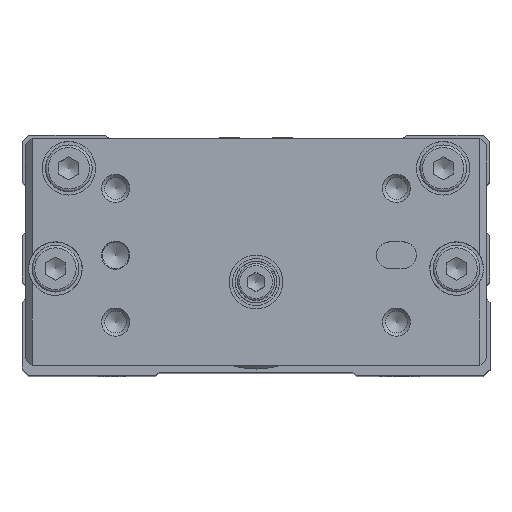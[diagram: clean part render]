
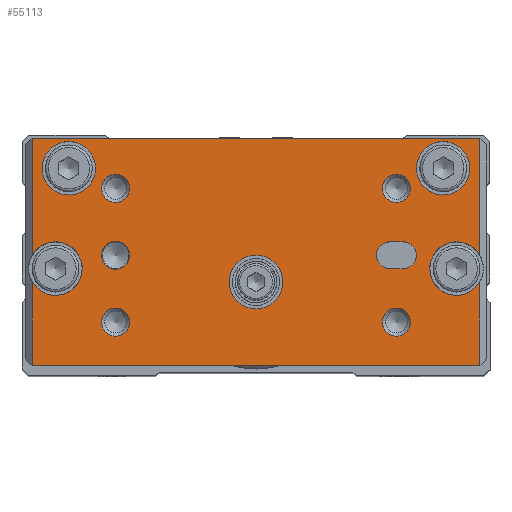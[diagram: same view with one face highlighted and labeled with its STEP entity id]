
A CAD part, top view. The second image highlights one B-rep face of the part: STEP entity #55113.
In plain terms, the highlighted planar face has unit normal (0, 0, 1).
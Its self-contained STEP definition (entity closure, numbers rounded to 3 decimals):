
#54469=CARTESIAN_POINT('',(0.634,10.496,60.028));
#54470=VERTEX_POINT('',#54469);
#54471=CARTESIAN_POINT('',(4.634,10.496,60.028));
#54472=VERTEX_POINT('',#54471);
#54473=CARTESIAN_POINT('',(2.634,10.496,60.028));
#54474=DIRECTION('',(0.0,0.0,-1.0));
#54475=DIRECTION('',(-1.0,0.0,0.0));
#54476=AXIS2_PLACEMENT_3D('',#54473,#54474,#54475);
#54477=CIRCLE('',#54476,2.0);
#54478=EDGE_CURVE('',#54470,#54472,#54477,.T.);
#54501=CARTESIAN_POINT('',(0.634,8.496,60.028));
#54502=VERTEX_POINT('',#54501);
#54503=CARTESIAN_POINT('',(0.634,8.496,60.028));
#54504=DIRECTION('',(0.0,1.0,0.0));
#54505=VECTOR('',#54504,2.);
#54506=LINE('',#54503,#54505);
#54507=EDGE_CURVE('',#54502,#54470,#54506,.T.);
#54525=CARTESIAN_POINT('',(4.634,8.496,60.028));
#54526=VERTEX_POINT('',#54525);
#54527=CARTESIAN_POINT('',(2.634,8.496,60.028));
#54528=DIRECTION('',(0.0,0.0,-1.0));
#54529=DIRECTION('',(1.0,0.0,0.0));
#54530=AXIS2_PLACEMENT_3D('',#54527,#54528,#54529);
#54531=CIRCLE('',#54530,2.0);
#54532=EDGE_CURVE('',#54526,#54502,#54531,.T.);
#54550=CARTESIAN_POINT('',(4.634,10.496,60.028));
#54551=DIRECTION('',(0.0,-1.0,0.0));
#54552=VECTOR('',#54551,2.);
#54553=LINE('',#54550,#54552);
#54554=EDGE_CURVE('',#54472,#54526,#54553,.T.);
#54584=CARTESIAN_POINT('',(4.734,-32.504,60.028));
#54585=VERTEX_POINT('',#54584);
#54586=CARTESIAN_POINT('',(2.634,-32.504,60.028));
#54587=DIRECTION('',(0.0,0.0,-1.0));
#54588=DIRECTION('',(1.0,0.0,0.0));
#54589=AXIS2_PLACEMENT_3D('',#54586,#54587,#54588);
#54590=CIRCLE('',#54589,2.1);
#54591=EDGE_CURVE('',#54585,#54585,#54590,.T.);
#54641=CARTESIAN_POINT('',(14.734,9.496,60.028));
#54642=VERTEX_POINT('',#54641);
#54643=CARTESIAN_POINT('',(12.634,9.496,60.028));
#54644=DIRECTION('',(0.0,0.0,-1.0));
#54645=DIRECTION('',(1.0,0.0,0.0));
#54646=AXIS2_PLACEMENT_3D('',#54643,#54644,#54645);
#54647=CIRCLE('',#54646,2.1);
#54648=EDGE_CURVE('',#54642,#54642,#54647,.T.);
#54698=CARTESIAN_POINT('',(-5.266,-32.504,60.028));
#54699=VERTEX_POINT('',#54698);
#54700=CARTESIAN_POINT('',(-7.366,-32.504,60.028));
#54701=DIRECTION('',(0.0,0.0,-1.0));
#54702=DIRECTION('',(1.0,0.0,0.0));
#54703=AXIS2_PLACEMENT_3D('',#54700,#54701,#54702);
#54704=CIRCLE('',#54703,2.1);
#54705=EDGE_CURVE('',#54699,#54699,#54704,.T.);
#54755=CARTESIAN_POINT('',(14.734,-32.504,60.028));
#54756=VERTEX_POINT('',#54755);
#54757=CARTESIAN_POINT('',(12.634,-32.504,60.028));
#54758=DIRECTION('',(0.0,0.0,-1.0));
#54759=DIRECTION('',(1.0,0.0,0.0));
#54760=AXIS2_PLACEMENT_3D('',#54757,#54758,#54759);
#54761=CIRCLE('',#54760,2.1);
#54762=EDGE_CURVE('',#54756,#54756,#54761,.T.);
#54812=CARTESIAN_POINT('',(-5.266,9.496,60.028));
#54813=VERTEX_POINT('',#54812);
#54814=CARTESIAN_POINT('',(-7.366,9.496,60.028));
#54815=DIRECTION('',(0.0,0.0,-1.0));
#54816=DIRECTION('',(1.0,0.0,0.0));
#54817=AXIS2_PLACEMENT_3D('',#54814,#54815,#54816);
#54818=CIRCLE('',#54817,2.1);
#54819=EDGE_CURVE('',#54813,#54813,#54818,.T.);
#54852=CARTESIAN_POINT('',(6.571,-45.004,60.028));
#54853=VERTEX_POINT('',#54852);
#54854=CARTESIAN_POINT('',(2.698,-45.004,60.028));
#54855=VERTEX_POINT('',#54854);
#54863=CARTESIAN_POINT('',(-14.866,-45.004,60.028));
#54864=VERTEX_POINT('',#54863);
#54865=CARTESIAN_POINT('',(2.698,-45.004,60.028));
#54866=DIRECTION('',(-1.0,0.0,0.0));
#54867=VECTOR('',#54866,17.564);
#54868=LINE('',#54865,#54867);
#54869=EDGE_CURVE('',#54855,#54864,#54868,.T.);
#54887=CARTESIAN_POINT('',(19.134,-45.004,60.028));
#54888=VERTEX_POINT('',#54887);
#54895=CARTESIAN_POINT('',(19.134,-45.004,60.028));
#54896=DIRECTION('',(-1.0,0.0,0.0));
#54897=VECTOR('',#54896,12.564);
#54898=LINE('',#54895,#54897);
#54899=EDGE_CURVE('',#54888,#54853,#54898,.T.);
#54948=CARTESIAN_POINT('',(2.698,21.996,60.028));
#54949=VERTEX_POINT('',#54948);
#54950=CARTESIAN_POINT('',(6.571,21.996,60.028));
#54951=VERTEX_POINT('',#54950);
#54959=CARTESIAN_POINT('',(19.134,21.996,60.028));
#54960=VERTEX_POINT('',#54959);
#54961=CARTESIAN_POINT('',(6.571,21.996,60.028));
#54962=DIRECTION('',(1.0,0.0,0.0));
#54963=VECTOR('',#54962,12.564);
#54964=LINE('',#54961,#54963);
#54965=EDGE_CURVE('',#54951,#54960,#54964,.T.);
#54983=CARTESIAN_POINT('',(-14.866,21.996,60.028));
#54984=VERTEX_POINT('',#54983);
#54991=CARTESIAN_POINT('',(-14.866,21.996,60.028));
#54992=DIRECTION('',(1.0,0.0,0.0));
#54993=VECTOR('',#54992,17.564);
#54994=LINE('',#54991,#54993);
#54995=EDGE_CURVE('',#54984,#54949,#54994,.T.);
#55022=CARTESIAN_POINT('',(2.134,-11.504,60.028));
#55023=DIRECTION('',(0.0,0.0,1.0));
#55024=DIRECTION('',(1.0,0.0,0.0));
#55025=AXIS2_PLACEMENT_3D('',#55022,#55023,#55024);
#55026=PLANE('',#55025);
#55027=ORIENTED_EDGE('',*,*,#54899,.F.);
#55028=CARTESIAN_POINT('',(19.134,-45.004,60.028));
#55029=DIRECTION('',(0.0,1.0,0.0));
#55030=VECTOR('',#55029,67.);
#55031=LINE('',#55028,#55030);
#55032=EDGE_CURVE('',#54888,#54960,#55031,.T.);
#55033=ORIENTED_EDGE('',*,*,#55032,.T.);
#55034=ORIENTED_EDGE('',*,*,#54965,.F.);
#55035=CARTESIAN_POINT('',(4.634,18.496,60.028));
#55036=DIRECTION('',(0.0,0.0,-1.0));
#55037=DIRECTION('',(1.0,0.0,0.0));
#55038=AXIS2_PLACEMENT_3D('',#55035,#55036,#55037);
#55039=CIRCLE('',#55038,4.);
#55040=EDGE_CURVE('',#54951,#54949,#55039,.T.);
#55041=ORIENTED_EDGE('',*,*,#55040,.T.);
#55042=ORIENTED_EDGE('',*,*,#54995,.F.);
#55043=CARTESIAN_POINT('',(-14.866,21.996,60.028));
#55044=DIRECTION('',(0.0,-1.0,0.0));
#55045=VECTOR('',#55044,67.);
#55046=LINE('',#55043,#55045);
#55047=EDGE_CURVE('',#54984,#54864,#55046,.T.);
#55048=ORIENTED_EDGE('',*,*,#55047,.T.);
#55049=ORIENTED_EDGE('',*,*,#54869,.F.);
#55050=CARTESIAN_POINT('',(4.634,-41.504,60.028));
#55051=DIRECTION('',(0.0,0.0,-1.0));
#55052=DIRECTION('',(1.0,0.0,0.0));
#55053=AXIS2_PLACEMENT_3D('',#55050,#55051,#55052);
#55054=CIRCLE('',#55053,4.);
#55055=EDGE_CURVE('',#54855,#54853,#55054,.T.);
#55056=ORIENTED_EDGE('',*,*,#55055,.T.);
#55057=EDGE_LOOP('',(#55027,#55033,#55034,#55041,#55042,#55048,#55049,#55056));
#55058=FACE_OUTER_BOUND('',#55057,.T.);
#55059=ORIENTED_EDGE('',*,*,#54478,.T.);
#55060=ORIENTED_EDGE('',*,*,#54554,.T.);
#55061=ORIENTED_EDGE('',*,*,#54532,.T.);
#55062=ORIENTED_EDGE('',*,*,#54507,.T.);
#55063=EDGE_LOOP('',(#55059,#55060,#55061,#55062));
#55064=FACE_BOUND('',#55063,.T.);
#55065=ORIENTED_EDGE('',*,*,#54591,.T.);
#55066=EDGE_LOOP('',(#55065));
#55067=FACE_BOUND('',#55066,.T.);
#55068=ORIENTED_EDGE('',*,*,#54648,.T.);
#55069=EDGE_LOOP('',(#55068));
#55070=FACE_BOUND('',#55069,.T.);
#55071=ORIENTED_EDGE('',*,*,#54705,.T.);
#55072=EDGE_LOOP('',(#55071));
#55073=FACE_BOUND('',#55072,.T.);
#55074=ORIENTED_EDGE('',*,*,#54762,.T.);
#55075=EDGE_LOOP('',(#55074));
#55076=FACE_BOUND('',#55075,.T.);
#55077=ORIENTED_EDGE('',*,*,#54819,.T.);
#55078=EDGE_LOOP('',(#55077));
#55079=FACE_BOUND('',#55078,.T.);
#55080=CARTESIAN_POINT('',(10.634,-11.504,60.028));
#55081=VERTEX_POINT('',#55080);
#55082=CARTESIAN_POINT('',(6.634,-11.504,60.028));
#55083=DIRECTION('',(0.0,0.0,-1.0));
#55084=DIRECTION('',(-1.0,0.0,0.0));
#55085=AXIS2_PLACEMENT_3D('',#55082,#55083,#55084);
#55086=CIRCLE('',#55085,4.);
#55087=EDGE_CURVE('',#55081,#55081,#55086,.T.);
#55088=ORIENTED_EDGE('',*,*,#55087,.T.);
#55089=EDGE_LOOP('',(#55088));
#55090=FACE_BOUND('',#55089,.T.);
#55091=CARTESIAN_POINT('',(-6.366,16.496,60.028));
#55092=VERTEX_POINT('',#55091);
#55093=CARTESIAN_POINT('',(-10.366,16.496,60.028));
#55094=DIRECTION('',(0.0,0.0,-1.0));
#55095=DIRECTION('',(1.0,0.0,0.0));
#55096=AXIS2_PLACEMENT_3D('',#55093,#55094,#55095);
#55097=CIRCLE('',#55096,4.);
#55098=EDGE_CURVE('',#55092,#55092,#55097,.T.);
#55099=ORIENTED_EDGE('',*,*,#55098,.T.);
#55100=EDGE_LOOP('',(#55099));
#55101=FACE_BOUND('',#55100,.T.);
#55102=CARTESIAN_POINT('',(-6.366,-39.504,60.028));
#55103=VERTEX_POINT('',#55102);
#55104=CARTESIAN_POINT('',(-10.366,-39.504,60.028));
#55105=DIRECTION('',(0.0,0.0,-1.0));
#55106=DIRECTION('',(1.0,0.0,0.0));
#55107=AXIS2_PLACEMENT_3D('',#55104,#55105,#55106);
#55108=CIRCLE('',#55107,4.);
#55109=EDGE_CURVE('',#55103,#55103,#55108,.T.);
#55110=ORIENTED_EDGE('',*,*,#55109,.T.);
#55111=EDGE_LOOP('',(#55110));
#55112=FACE_BOUND('',#55111,.T.);
#55113=ADVANCED_FACE('',(#55058,#55064,#55067,#55070,#55073,#55076,#55079,#55090,#55101,#55112),#55026,.T.);
